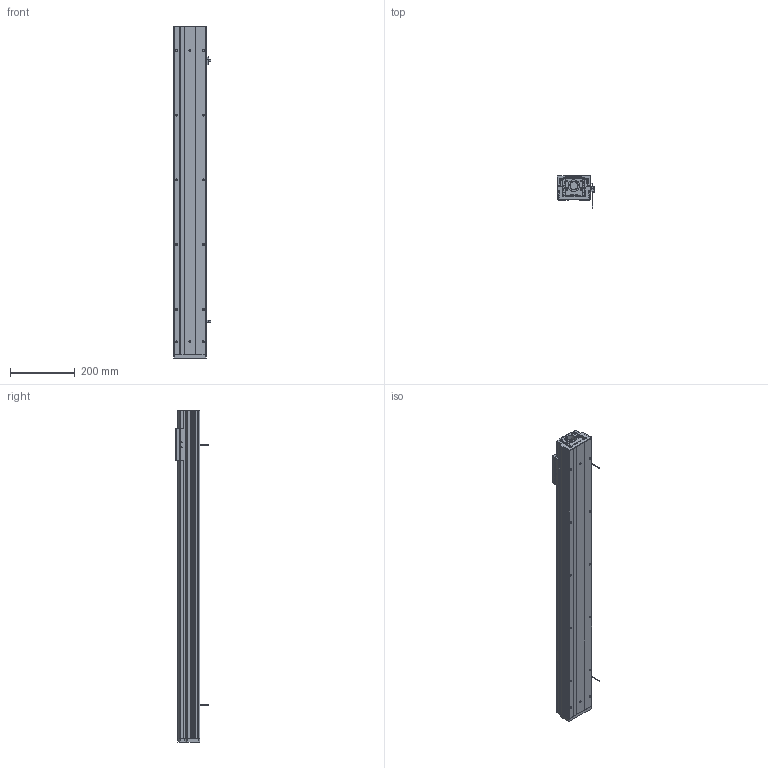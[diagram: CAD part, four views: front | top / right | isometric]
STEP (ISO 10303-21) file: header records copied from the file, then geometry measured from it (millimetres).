
FILE_DESCRIPTION (( 'STEP AP203' ), '1' );
FILE_NAME ('CTHM10-S800-O-BC.STEP', '2019-12-18T01:04:21', ( '微软用户' ), ( '微软中国' ), 'SwSTEP 2.0', 'SolidWorks 2017', '' );
FILE_SCHEMA (( 'CONFIG_CONTROL_DESIGN' ));
Length unit declared in the file: millimetre
Products named in the file (11): 覜茼え; 遣喳蝶15x12x8; CTHM10菁釱(200); EE-SX672-BR; CTHM10痄雄釱(党蜊); CTHM10-S800-O-BC; CTHM10盓傅耜; CTHM10固定侧自制轴承座; CTHM10裔啣(100); CTHM10傷裔(祥結裔啣); CTHM10綴傷裔
Assembly tree (14 placements, depth 2):
  CTHM10-S800-O-BC
    CTHM10菁釱(200)
    CTHM10痄雄釱(党蜊)
    CTHM10盓傅耜
    CTHM10固定侧自制轴承座
    CTHM10裔啣(100)
    CTHM10傷裔(祥結裔啣)
    CTHM10綴傷裔
    覜茼え
    遣喳蝶15x12x8  x4
    EE-SX672-BR  x2
Bounding box: 114.7 x 100.2 x 1025 mm (x, y, z)
Volume: 2620802.7 mm3; surface area: 877821.4 mm2
Topology: 14 solids, 14 shells, 960 faces, 2722 edges, 1776 vertices
Faces by surface type: cylinder 517, plane 399, cone 44
Entity records: 32565 total; most frequent: CARTESIAN_POINT 7857, DIRECTION 4964, ORIENTED_EDGE 4916, EDGE_CURVE 2458, AXIS2_PLACEMENT_3D 1821, VERTEX_POINT 1624, VECTOR 1322, LINE 1322
